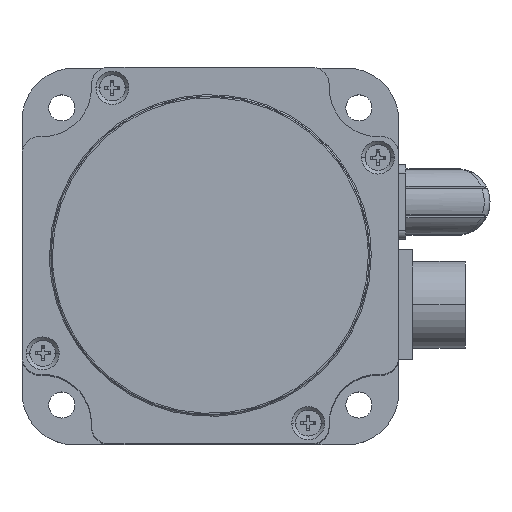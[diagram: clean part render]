
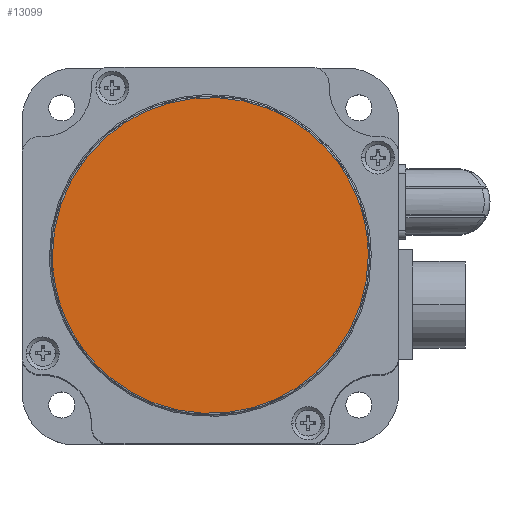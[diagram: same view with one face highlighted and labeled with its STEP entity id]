
A CAD part, top view. The second image highlights one B-rep face of the part: STEP entity #13099.
In plain terms, the highlighted planar face has unit normal (0, 0, 1).
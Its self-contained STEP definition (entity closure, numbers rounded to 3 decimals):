
#540 = CARTESIAN_POINT ( 'NONE',  ( -66.883, 27.006, 203.149 ) ) ;
#541 = CARTESIAN_POINT ( 'NONE',  ( -66.883, 136.006, 203.149 ) ) ;
#542 = CARTESIAN_POINT ( 'NONE',  ( -175.883, 136.006, 203.149 ) ) ;
#543 = CARTESIAN_POINT ( 'NONE',  ( -175.883, 27.006, 203.149 ) ) ;
#544 =( BOUNDED_CURVE ( )  B_SPLINE_CURVE ( 3, ( #543, #542, #541, #540 ),
 .UNSPECIFIED., .F., .T. ) 
 B_SPLINE_CURVE_WITH_KNOTS ( ( 4, 4 ),
 ( 0., 1. ),
 .UNSPECIFIED. ) 
 CURVE ( )  GEOMETRIC_REPRESENTATION_ITEM ( )  RATIONAL_B_SPLINE_CURVE ( ( 1., 0.333, 0.333, 1. ) ) 
 REPRESENTATION_ITEM ( '' )  );
#546 = DIRECTION ( 'NONE',  ( -1., 0., 0. ) ) ;
#547 = DIRECTION ( 'NONE',  ( 0., 0., -1. ) ) ;
#548 = CARTESIAN_POINT ( 'NONE',  ( -56.383, -37.994, 203.149 ) ) ;
#549 = AXIS2_PLACEMENT_3D ( 'NONE', #548, #547, #546 ) ;
#550 = PLANE ( 'NONE',  #549 ) ;
#556 = FACE_OUTER_BOUND ( 'NONE', #13101, .T. ) ;
#11765 = VERTEX_POINT ( 'NONE', #26002 ) ;
#11767 = EDGE_CURVE ( 'NONE', #11765, #11768, #25999, .T. ) ;
#11768 = VERTEX_POINT ( 'NONE', #26001 ) ;
#13099 = ADVANCED_FACE ( 'NONE', ( #556 ), #550, .F. ) ;
#13101 = EDGE_LOOP ( 'NONE', ( #13102, #13104 ) ) ;
#13102 = ORIENTED_EDGE ( 'NONE', *, *, #13103, .F. ) ;
#13103 = EDGE_CURVE ( 'NONE', #11768, #11765, #544, .T. ) ;
#13104 = ORIENTED_EDGE ( 'NONE', *, *, #11767, .F. ) ;
#25993 = CARTESIAN_POINT ( 'NONE',  ( -175.883, 27.006, 203.149 ) ) ;
#25994 = CARTESIAN_POINT ( 'NONE',  ( -175.883, -81.994, 203.149 ) ) ;
#25995 = CARTESIAN_POINT ( 'NONE',  ( -66.883, -81.994, 203.149 ) ) ;
#25996 = CARTESIAN_POINT ( 'NONE',  ( -66.883, 27.006, 203.149 ) ) ;
#25999 =( BOUNDED_CURVE ( )  B_SPLINE_CURVE ( 3, ( #25996, #25995, #25994, #25993 ),
 .UNSPECIFIED., .F., .T. ) 
 B_SPLINE_CURVE_WITH_KNOTS ( ( 4, 4 ),
 ( 0., 1. ),
 .UNSPECIFIED. ) 
 CURVE ( )  GEOMETRIC_REPRESENTATION_ITEM ( )  RATIONAL_B_SPLINE_CURVE ( ( 1., 0.333, 0.333, 1. ) ) 
 REPRESENTATION_ITEM ( '' )  );
#26001 = CARTESIAN_POINT ( 'NONE',  ( -175.883, 27.006, 203.149 ) ) ;
#26002 = CARTESIAN_POINT ( 'NONE',  ( -66.883, 27.006, 203.149 ) ) ;
